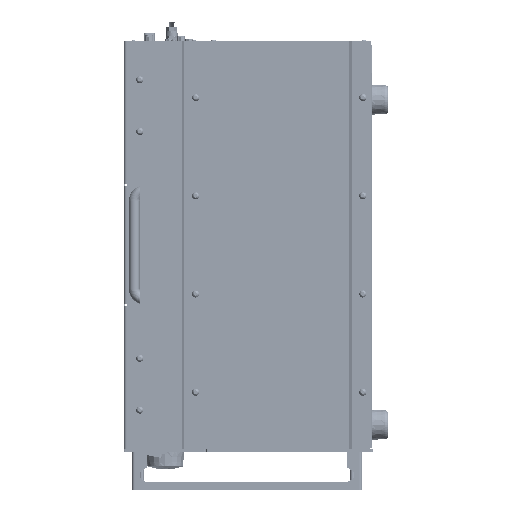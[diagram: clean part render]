
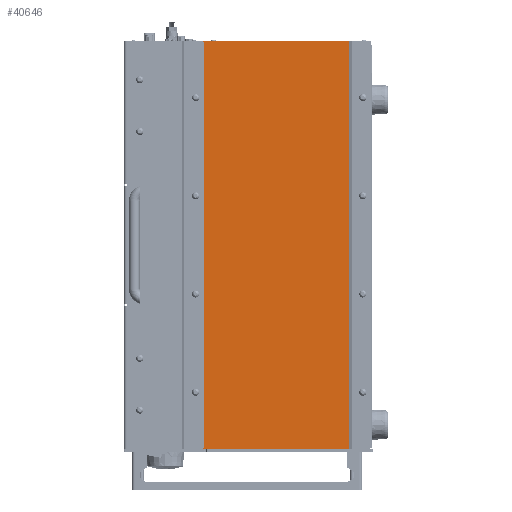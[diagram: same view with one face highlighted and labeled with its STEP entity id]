
A CAD part, left-side view. The second image highlights one B-rep face of the part: STEP entity #40646.
In plain terms, the highlighted planar face has unit normal (-1, 0, 0).
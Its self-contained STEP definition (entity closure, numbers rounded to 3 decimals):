
#40646=ADVANCED_FACE('',(#84907,#84908,#84909,#84910,#84911),#84912,.F.);
#84907=FACE_OUTER_BOUND('',#161483,.T.);
#84908=FACE_BOUND('',#161484,.T.);
#84909=FACE_BOUND('',#161485,.T.);
#84910=FACE_BOUND('',#161486,.T.);
#84911=FACE_BOUND('',#161487,.T.);
#84912=PLANE('',#161488);
#161483=EDGE_LOOP('',(#277800,#277801,#277802,#277803,#277804,#277805,#277806,#277807));
#161484=EDGE_LOOP('',(#277808,#277809));
#161485=EDGE_LOOP('',(#277810,#277811));
#161486=EDGE_LOOP('',(#277812,#277813));
#161487=EDGE_LOOP('',(#277814,#277815));
#161488=AXIS2_PLACEMENT_3D('',#277816,#277817,#277818);
#277800=ORIENTED_EDGE('',*,*,#347085,.T.);
#277801=ORIENTED_EDGE('',*,*,#347083,.T.);
#277802=ORIENTED_EDGE('',*,*,#347144,.T.);
#277803=ORIENTED_EDGE('',*,*,#347145,.T.);
#277804=ORIENTED_EDGE('',*,*,#347123,.F.);
#277805=ORIENTED_EDGE('',*,*,#347101,.T.);
#277806=ORIENTED_EDGE('',*,*,#347078,.T.);
#277807=ORIENTED_EDGE('',*,*,#347089,.F.);
#277808=ORIENTED_EDGE('',*,*,#347128,.F.);
#277809=ORIENTED_EDGE('',*,*,#347061,.F.);
#277810=ORIENTED_EDGE('',*,*,#347130,.F.);
#277811=ORIENTED_EDGE('',*,*,#347056,.F.);
#277812=ORIENTED_EDGE('',*,*,#347132,.F.);
#277813=ORIENTED_EDGE('',*,*,#347051,.F.);
#277814=ORIENTED_EDGE('',*,*,#347134,.F.);
#277815=ORIENTED_EDGE('',*,*,#347046,.F.);
#277816=CARTESIAN_POINT('',(-460.723,105.175,44.01));
#277817=DIRECTION('',(1.0,0.,0.));
#277818=DIRECTION('',(0.,1.0,0.));
#347046=EDGE_CURVE('',#418134,#418137,#418138,.F.);
#347051=EDGE_CURVE('',#418143,#418146,#418147,.F.);
#347056=EDGE_CURVE('',#418152,#418155,#418156,.F.);
#347061=EDGE_CURVE('',#418161,#418164,#418165,.F.);
#347078=EDGE_CURVE('',#418189,#418193,#418195,.T.);
#347083=EDGE_CURVE('',#418198,#418202,#418204,.T.);
#347085=EDGE_CURVE('',#418206,#418198,#418207,.T.);
#347089=EDGE_CURVE('',#418206,#418193,#418212,.T.);
#347101=EDGE_CURVE('',#418227,#418189,#418228,.T.);
#347123=EDGE_CURVE('',#418227,#418256,#418257,.T.);
#347128=EDGE_CURVE('',#418164,#418161,#418263,.F.);
#347130=EDGE_CURVE('',#418155,#418152,#418265,.F.);
#347132=EDGE_CURVE('',#418146,#418143,#418267,.F.);
#347134=EDGE_CURVE('',#418137,#418134,#418269,.F.);
#347144=EDGE_CURVE('',#418202,#418279,#418280,.T.);
#347145=EDGE_CURVE('',#418279,#418256,#418281,.T.);
#418134=VERTEX_POINT('',#520742);
#418137=VERTEX_POINT('',#520746);
#418138=CIRCLE('',#520747,2.5);
#418143=VERTEX_POINT('',#520753);
#418146=VERTEX_POINT('',#520757);
#418147=CIRCLE('',#520758,2.5);
#418152=VERTEX_POINT('',#520764);
#418155=VERTEX_POINT('',#520768);
#418156=CIRCLE('',#520769,2.5);
#418161=VERTEX_POINT('',#520775);
#418164=VERTEX_POINT('',#520779);
#418165=CIRCLE('',#520780,2.5);
#418189=VERTEX_POINT('',#520809);
#418193=VERTEX_POINT('',#520814);
#418195=CIRCLE('',#520817,1.457);
#418198=VERTEX_POINT('',#520820);
#418202=VERTEX_POINT('',#520825);
#418204=CIRCLE('',#520828,2.538);
#418206=VERTEX_POINT('',#520830);
#418207=CIRCLE('',#520831,2.538);
#418212=LINE('',#520837,#520838);
#418227=VERTEX_POINT('',#520857);
#418228=CIRCLE('',#520858,1.457);
#418256=VERTEX_POINT('',#520894);
#418257=LINE('',#520895,#520896);
#418263=CIRCLE('',#520905,2.5);
#418265=CIRCLE('',#520907,2.5);
#418267=CIRCLE('',#520909,2.5);
#418269=CIRCLE('',#520911,2.5);
#418279=VERTEX_POINT('',#520921);
#418280=LINE('',#520922,#520923);
#418281=LINE('',#520924,#520925);
#520742=CARTESIAN_POINT('',(-460.723,205.05,414.76));
#520746=CARTESIAN_POINT('',(-460.723,205.05,419.76));
#520747=AXIS2_PLACEMENT_3D('',#586062,#586063,#586064);
#520753=CARTESIAN_POINT('',(-460.723,205.05,310.34));
#520757=CARTESIAN_POINT('',(-460.723,205.05,315.34));
#520758=AXIS2_PLACEMENT_3D('',#586070,#586071,#586072);
#520764=CARTESIAN_POINT('',(-460.723,205.05,205.93));
#520768=CARTESIAN_POINT('',(-460.723,205.05,210.93));
#520769=AXIS2_PLACEMENT_3D('',#586078,#586079,#586080);
#520775=CARTESIAN_POINT('',(-460.723,205.05,101.51));
#520779=CARTESIAN_POINT('',(-460.723,205.05,106.51));
#520780=AXIS2_PLACEMENT_3D('',#586086,#586087,#586088);
#520809=CARTESIAN_POINT('',(-460.723,212.873,476.833));
#520814=CARTESIAN_POINT('',(-460.723,213.3,475.803));
#520817=AXIS2_PLACEMENT_3D('',#586114,#586115,#586116);
#520820=CARTESIAN_POINT('',(-460.723,212.557,44.753));
#520825=CARTESIAN_POINT('',(-460.723,210.762,44.01));
#520828=AXIS2_PLACEMENT_3D('',#586122,#586123,#586124);
#520830=CARTESIAN_POINT('',(-460.723,213.3,46.548));
#520831=AXIS2_PLACEMENT_3D('',#586125,#586126,#586127);
#520837=CARTESIAN_POINT('',(-460.723,213.3,44.01));
#520838=VECTOR('',#586132,1.0);
#520857=CARTESIAN_POINT('',(-460.723,211.843,477.26));
#520858=AXIS2_PLACEMENT_3D('',#586152,#586153,#586154);
#520894=CARTESIAN_POINT('',(-460.723,41.5,477.26));
#520895=CARTESIAN_POINT('',(-460.723,168.85,477.26));
#520896=VECTOR('',#586187,1.0);
#520905=AXIS2_PLACEMENT_3D('',#586191,#586192,#586193);
#520907=AXIS2_PLACEMENT_3D('',#586194,#586195,#586196);
#520909=AXIS2_PLACEMENT_3D('',#586197,#586198,#586199);
#520911=AXIS2_PLACEMENT_3D('',#586200,#586201,#586202);
#520921=CARTESIAN_POINT('',(-460.723,41.5,44.01));
#520922=CARTESIAN_POINT('',(-460.723,168.85,44.01));
#520923=VECTOR('',#586215,1.0);
#520924=CARTESIAN_POINT('',(-460.723,41.5,44.01));
#520925=VECTOR('',#586216,1.0);
#586062=CARTESIAN_POINT('',(-460.723,205.05,417.26));
#586063=DIRECTION('',(1.0,0.,0.));
#586064=DIRECTION('',(0.,0.,-1.0));
#586070=CARTESIAN_POINT('',(-460.723,205.05,312.84));
#586071=DIRECTION('',(1.0,0.,0.));
#586072=DIRECTION('',(0.,0.,-1.0));
#586078=CARTESIAN_POINT('',(-460.723,205.05,208.43));
#586079=DIRECTION('',(1.0,0.,0.));
#586080=DIRECTION('',(0.,0.,-1.0));
#586086=CARTESIAN_POINT('',(-460.723,205.05,104.01));
#586087=DIRECTION('',(1.0,0.,0.));
#586088=DIRECTION('',(0.,0.,-1.0));
#586114=CARTESIAN_POINT('',(-460.723,211.843,475.803));
#586115=DIRECTION('',(-1.0,0.,0.));
#586116=DIRECTION('',(0.,0.707,0.707));
#586122=CARTESIAN_POINT('',(-460.723,210.762,46.548));
#586123=DIRECTION('',(-1.0,0.,0.));
#586124=DIRECTION('',(0.,0.707,-0.707));
#586125=CARTESIAN_POINT('',(-460.723,210.762,46.548));
#586126=DIRECTION('',(-1.0,0.,0.));
#586127=DIRECTION('',(0.,0.707,-0.707));
#586132=DIRECTION('',(0.0,0.0,1.0));
#586152=CARTESIAN_POINT('',(-460.723,211.843,475.803));
#586153=DIRECTION('',(-1.0,0.,0.));
#586154=DIRECTION('',(0.,0.707,0.707));
#586187=DIRECTION('',(0.0,-1.0,0.0));
#586191=CARTESIAN_POINT('',(-460.723,205.05,104.01));
#586192=DIRECTION('',(1.0,0.,0.));
#586193=DIRECTION('',(0.,0.,-1.0));
#586194=CARTESIAN_POINT('',(-460.723,205.05,208.43));
#586195=DIRECTION('',(1.0,0.,0.));
#586196=DIRECTION('',(0.,0.,-1.0));
#586197=CARTESIAN_POINT('',(-460.723,205.05,312.84));
#586198=DIRECTION('',(1.0,0.,0.));
#586199=DIRECTION('',(0.,0.,-1.0));
#586200=CARTESIAN_POINT('',(-460.723,205.05,417.26));
#586201=DIRECTION('',(1.0,0.,0.));
#586202=DIRECTION('',(0.,0.,-1.0));
#586215=DIRECTION('',(0.0,-1.0,0.0));
#586216=DIRECTION('',(0.0,0.0,1.0));
